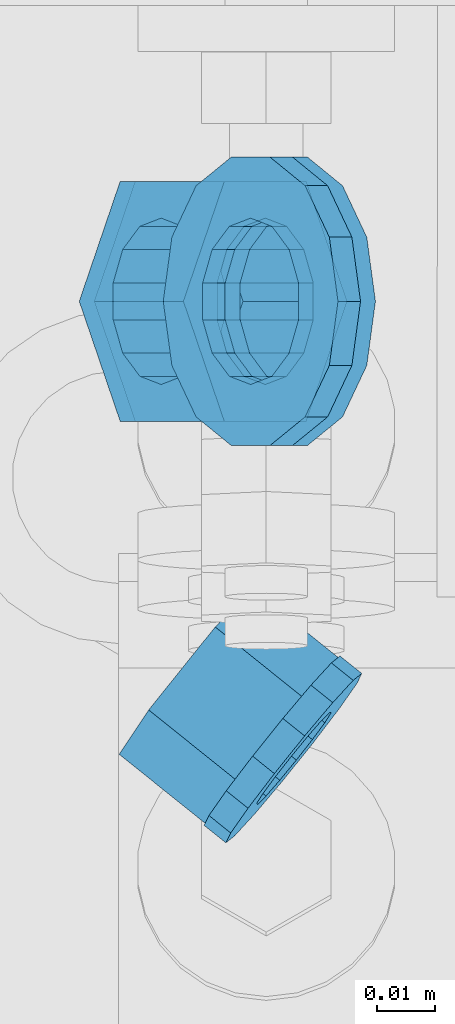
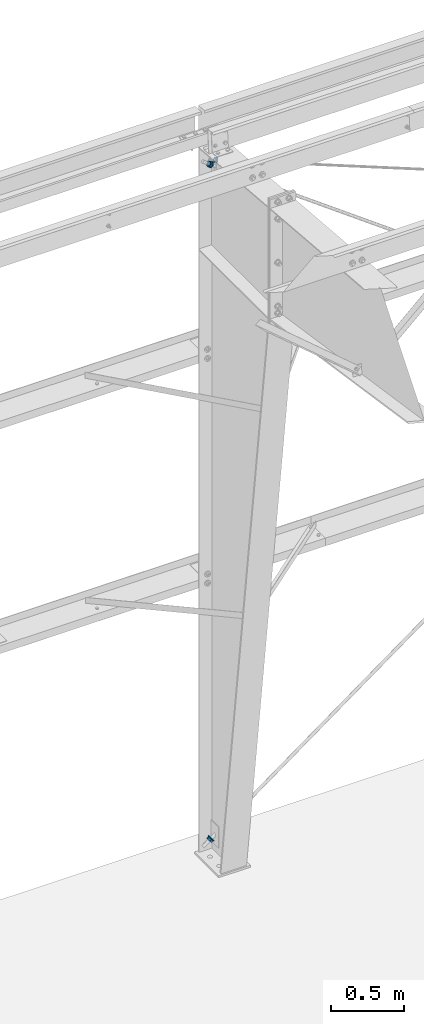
# One storey, part 37 of 185: 4 members, 2 beams, 6 elements without a shape of their own.
"""IFC2X3 building model written with IfcOpenShell, lengths in millimetres."""

from ifc_helpers import new_model, si_unit, frame, origin_with_axes, place, context, subcontext, project, spatial, polyline, outline, extrude, material, type_object, element, aggregate, save


model = new_model("IFC2X3")

# Units and contexts
model_context = context("Model", 3, precision=1e-05, world=origin_with_axes())
body_context = subcontext(model_context, "Body", "Model", "MODEL_VIEW")
ifc_project = project(units=[si_unit("LENGTHUNIT", "METRE", prefix="MILLI"), si_unit("AREAUNIT", "SQUARE_METRE"), si_unit("VOLUMEUNIT", "CUBIC_METRE"), si_unit("MASSUNIT", "GRAM", prefix="KILO"), si_unit("TIMEUNIT", "SECOND"), si_unit("PLANEANGLEUNIT", "RADIAN"), si_unit("SOLIDANGLEUNIT", "STERADIAN"), si_unit("THERMODYNAMICTEMPERATUREUNIT", "DEGREE_CELSIUS"), si_unit("LUMINOUSINTENSITYUNIT", "LUMEN")], contexts=[model_context])

# Site, building, storey
site_placement = place(None, origin_with_axes())
site = spatial("IfcSite", under=ifc_project, at=site_placement, Name="Undefined", CompositionType="ELEMENT")
building_placement = place(site_placement, origin_with_axes())
building = spatial("IfcBuilding", under=site, at=building_placement, Name="Undefined", CompositionType="ELEMENT")
storey_placement = place(building_placement, origin_with_axes())
storey = spatial("IfcBuildingStorey", under=building, at=storey_placement, Name="Undefined", CompositionType="ELEMENT", Elevation=0.0)

# Assembly, member
assembly_1_placement = place(storey_placement, origin_with_axes())
assembly_1 = element("IfcElementAssembly", 1, at=assembly_1_placement, inside=storey, Name="Steel Assembly", AssemblyPlace="NOTDEFINED", PredefinedType="RIGID_FRAME")
ifc_material = material(Name="STEEL/55")
member_type_1 = type_object("IfcMemberType", Name="1_HEAVY_HEX_NUT", PredefinedType="NOTDEFINED")
member_1_placement = place(assembly_1_placement, frame((7200.77703490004, 31742.1260000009, 140.13358338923), z_axis=(-8.18690000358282e-05, -0.999999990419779, 0.000111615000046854), x_axis=(-0.806747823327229, 0.0, -0.590895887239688)))
member_1 = element("IfcMember", 2, at=member_1_placement, type_object=member_type_1, material=ifc_material, Name="1 H HEX NUT A563", ObjectType="1_HEAVY_HEX_NUT", context=body_context, shape_type="SweptSolid", body=[
    extrude(outline(polyline([(-11.909999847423, 20.620000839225), (11.9099998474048, 20.6200008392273), (23.8099994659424, -4.9453774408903e-12), (11.9099998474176, -20.6200008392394), (-11.9099998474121, -20.6200008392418), (-23.8099994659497, -9.49285094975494e-12), (-11.909999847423, 20.620000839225)]), holes=[polyline([(11.1723718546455, -8.90966924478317), (13.9317198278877, -3.17982413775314), (13.9317198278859, 3.17982413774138), (11.17237185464, 8.9096692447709), (6.20019861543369, 12.8748450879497), (-5.45696821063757e-12, 14.2899999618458), (-6.20019861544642, 12.8748450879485), (-11.1723718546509, 8.90966924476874), (-13.931719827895, 3.17982413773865), (-13.9317198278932, -3.17982413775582), (-11.1723718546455, -8.90966924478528), (-6.20019861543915, -12.8748450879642), (0.0, -14.2899999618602), (6.20019861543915, -12.874845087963), (11.1723718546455, -8.90966924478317)])]), frame((19.0500000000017, 0.0, 2.58175642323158e-19), z_axis=(-1.0, 0.0, 0.0), x_axis=(0.0, -1.0, 0.0)), (0.0, 0.0, 1.0), 19.0),
])
aggregate(assembly_1, [member_1])

assembly_2_placement = place(storey_placement, origin_with_axes())
assembly_2 = element("IfcElementAssembly", 3, at=assembly_2_placement, inside=storey, Name="Steel Assembly", AssemblyPlace="NOTDEFINED", PredefinedType="RIGID_FRAME")
member_2_placement = place(assembly_2_placement, frame((7198.21561148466, 31742.1259999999, 5779.4995872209), z_axis=(-8.17930000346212e-05, 0.999999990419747, -0.000111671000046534), x_axis=(-0.806747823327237, 0.0, 0.590895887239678)))
member_2 = element("IfcMember", 4, at=member_2_placement, type_object=member_type_1, material=ifc_material, Name="1 H HEX NUT A563", ObjectType="1_HEAVY_HEX_NUT", context=body_context, shape_type="SweptSolid", body=[
    extrude(outline(polyline([(-11.909999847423, 20.620000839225), (11.9099998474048, 20.6200008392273), (23.8099994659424, -4.9453774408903e-12), (11.9099998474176, -20.6200008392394), (-11.9099998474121, -20.6200008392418), (-23.8099994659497, -9.49285094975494e-12), (-11.909999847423, 20.620000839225)]), holes=[polyline([(11.1723718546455, -8.90966924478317), (13.9317198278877, -3.17982413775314), (13.9317198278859, 3.17982413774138), (11.17237185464, 8.9096692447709), (6.20019861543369, 12.8748450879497), (-5.45696821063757e-12, 14.2899999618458), (-6.20019861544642, 12.8748450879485), (-11.1723718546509, 8.90966924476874), (-13.931719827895, 3.17982413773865), (-13.9317198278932, -3.17982413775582), (-11.1723718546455, -8.90966924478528), (-6.20019861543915, -12.8748450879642), (0.0, -14.2899999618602), (6.20019861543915, -12.874845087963), (11.1723718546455, -8.90966924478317)])]), frame((19.0500000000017, 0.0, 2.58175642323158e-19), z_axis=(-1.0, 0.0, 0.0), x_axis=(0.0, -1.0, 0.0)), (0.0, 0.0, 1.0), 19.0),
])
aggregate(assembly_2, [member_2])

assembly_3_placement = place(storey_placement, origin_with_axes())
assembly_3 = element("IfcElementAssembly", 5, at=assembly_3_placement, inside=storey, Name="Steel Assembly", AssemblyPlace="NOTDEFINED", PredefinedType="RIGID_FRAME")
member_type_2 = type_object("IfcMemberType", Name="1_WASHER", PredefinedType="NOTDEFINED")
member_3_placement = place(assembly_3_placement, frame((7204.61917140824, 31742.1260000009, 142.947725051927), z_axis=(-8.18690000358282e-05, -0.999999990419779, 0.000111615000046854), x_axis=(-0.806747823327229, 0.0, -0.590895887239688)))
member_3 = element("IfcMember", 6, at=member_3_placement, type_object=member_type_2, material=ifc_material, Name="1 WASHER F844", ObjectType="1_WASHER", context=body_context, shape_type="SweptSolid", body=[
    extrude(outline(polyline([(15.8366407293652, 19.8585193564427), (22.8846089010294, 11.020646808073), (25.3999996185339, 6.25277607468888e-13), (22.8846089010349, -11.0206468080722), (15.8366407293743, -19.8585193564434), (5.6520316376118, -24.7631685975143), (-5.65203163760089, -24.7631685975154), (-15.8366407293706, -19.8585193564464), (-22.8846089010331, -11.0206468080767), (-25.3999996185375, -4.32009983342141e-12), (-22.8846089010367, 11.0206468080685), (-15.8366407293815, 19.8585193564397), (-5.65203163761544, 24.7631685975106), (5.65203163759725, 24.7631685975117), (15.8366407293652, 19.8585193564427)]), holes=[polyline([(11.1723718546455, -8.90966924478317), (13.9317198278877, -3.17982413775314), (13.9317198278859, 3.17982413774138), (11.17237185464, 8.9096692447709), (6.20019861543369, 12.8748450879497), (-5.45696821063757e-12, 14.2899999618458), (-6.20019861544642, 12.8748450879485), (-11.1723718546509, 8.90966924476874), (-13.931719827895, 3.17982413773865), (-13.9317198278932, -3.17982413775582), (-11.1723718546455, -8.90966924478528), (-6.20019861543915, -12.8748450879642), (0.0, -14.2899999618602), (6.20019861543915, -12.874845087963), (11.1723718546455, -8.90966924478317)])]), frame((4.76250000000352, 2.6437185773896e-16, 5.6843418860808e-14), z_axis=(-1.0, 0.0, 0.0), x_axis=(0.0, -1.0, 0.0)), (0.0, 0.0, 1.0), 4.8),
])
aggregate(assembly_3, [member_3])

assembly_4_placement = place(storey_placement, origin_with_axes())
assembly_4 = element("IfcElementAssembly", 7, at=assembly_4_placement, inside=storey, Name="Steel Assembly", AssemblyPlace="NOTDEFINED", PredefinedType="RIGID_FRAME")
member_4_placement = place(assembly_4_placement, frame((7202.05774799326, 31742.1259999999, 5776.68544555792), z_axis=(-8.17930000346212e-05, 0.999999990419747, -0.000111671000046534), x_axis=(-0.806747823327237, 0.0, 0.590895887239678)))
member_4 = element("IfcMember", 8, at=member_4_placement, type_object=member_type_2, material=ifc_material, Name="1 WASHER F844", ObjectType="1_WASHER", context=body_context, shape_type="SweptSolid", body=[
    extrude(outline(polyline([(15.8366407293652, 19.8585193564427), (22.8846089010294, 11.020646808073), (25.3999996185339, 6.25277607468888e-13), (22.8846089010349, -11.0206468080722), (15.8366407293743, -19.8585193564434), (5.6520316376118, -24.7631685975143), (-5.65203163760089, -24.7631685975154), (-15.8366407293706, -19.8585193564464), (-22.8846089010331, -11.0206468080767), (-25.3999996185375, -4.32009983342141e-12), (-22.8846089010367, 11.0206468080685), (-15.8366407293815, 19.8585193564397), (-5.65203163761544, 24.7631685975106), (5.65203163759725, 24.7631685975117), (15.8366407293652, 19.8585193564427)]), holes=[polyline([(11.1723718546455, -8.90966924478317), (13.9317198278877, -3.17982413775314), (13.9317198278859, 3.17982413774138), (11.17237185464, 8.9096692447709), (6.20019861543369, 12.8748450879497), (-5.45696821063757e-12, 14.2899999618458), (-6.20019861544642, 12.8748450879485), (-11.1723718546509, 8.90966924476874), (-13.931719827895, 3.17982413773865), (-13.9317198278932, -3.17982413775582), (-11.1723718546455, -8.90966924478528), (-6.20019861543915, -12.8748450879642), (0.0, -14.2899999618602), (6.20019861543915, -12.874845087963), (11.1723718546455, -8.90966924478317)])]), frame((4.76250000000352, 2.6437185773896e-16, 5.6843418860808e-14), z_axis=(-1.0, 0.0, 0.0), x_axis=(0.0, -1.0, 0.0)), (0.0, 0.0, 1.0), 4.8),
])
aggregate(assembly_4, [member_4])

# Assembly, beam
assembly_5_placement = place(storey_placement, origin_with_axes())
assembly_5 = element("IfcElementAssembly", 9, at=assembly_5_placement, inside=storey, Name="Steel Assembly", AssemblyPlace="NOTDEFINED", PredefinedType="RIGID_FRAME")
beam_type_1 = type_object("IfcBeamType", Name="3/4_HEAVY_HEX_NUT", PredefinedType="NOTDEFINED")
beam_1_placement = place(assembly_5_placement, frame((7201.90416712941, 31666.6493418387, 5861.25437917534), z_axis=(0.0409593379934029, -0.0321710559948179, -0.998642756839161), x_axis=(-0.778915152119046, 0.624963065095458, -0.0520802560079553)))
beam_1 = element("IfcBeam", 10, at=beam_1_placement, type_object=beam_type_1, material=ifc_material, Name="3/4 H HEX NUT A563", ObjectType="3/4_HEAVY_HEX_NUT", context=body_context, shape_type="SweptSolid", body=[
    extrude(outline(polyline([(9.13000011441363, -15.810000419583), (-9.13000011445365, -15.810000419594), (-18.2600002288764, 1.54614099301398e-11), (-9.13000011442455, 15.8100004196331), (9.13000011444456, 15.8100004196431), (18.2600002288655, 3.36513039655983e-11), (9.13000011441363, -15.810000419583)]), holes=[polyline([(-8.06850066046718, 6.43441456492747), (-10.061255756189, 2.29641597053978), (-10.0612557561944, -2.29641597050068), (-8.06850066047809, -6.43441456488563), (-4.47768005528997, -9.29799844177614), (-1.09139364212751e-11, -10.3199996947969), (4.47768005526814, -9.29799844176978), (8.0685006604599, -6.43441456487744), (10.0612557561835, -2.29641597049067), (10.0612557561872, 2.2964159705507), (8.06850066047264, 6.43441456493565), (4.47768005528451, 9.29799844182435), (7.27595761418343e-12, 10.319999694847), (-4.47768005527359, 9.2979984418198), (-8.06850066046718, 6.43441456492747)])]), frame((19.0500000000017, 0.0, 2.58175642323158e-19), z_axis=(-1.0, 0.0, 0.0), x_axis=(0.0, -1.0, 0.0)), (0.0, 0.0, 1.0), 19.1),
])
aggregate(assembly_5, [beam_1])

assembly_6_placement = place(storey_placement, origin_with_axes())
assembly_6 = element("IfcElementAssembly", 11, at=assembly_6_placement, inside=storey, Name="Steel Assembly", AssemblyPlace="NOTDEFINED", PredefinedType="RIGID_FRAME")
beam_type_2 = type_object("IfcBeamType", Name="3/4_WASHER", PredefinedType="NOTDEFINED")
beam_2_placement = place(assembly_6_placement, frame((7205.61375054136, 31663.6729552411, 5861.50241139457), z_axis=(0.0409593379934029, -0.0321710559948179, -0.998642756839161), x_axis=(-0.778915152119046, 0.624963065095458, -0.0520802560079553)))
beam_2 = element("IfcBeam", 12, at=beam_2_placement, type_object=beam_type_2, material=ifc_material, Name="3/4 WASHER F844", ObjectType="3/4_WASHER", context=body_context, shape_type="SweptSolid", body=[
    extrude(outline(polyline([(-11.6280845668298, -14.5811568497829), (-16.8030690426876, -8.09193156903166), (-18.649999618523, -4.54747350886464e-12), (-16.8030690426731, 8.09193156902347), (-11.6280845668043, 14.5811568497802), (-4.15001533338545, 18.1824051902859), (4.15001533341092, 18.1824051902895), (11.628084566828, 14.5811568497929), (16.8030690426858, 8.09193156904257), (18.6499996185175, 1.45519152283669e-11), (16.8030690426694, -8.09193156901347), (11.6280845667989, -14.5811568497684), (4.15001533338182, -18.182405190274), (-4.15001533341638, -18.1824051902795), (-11.6280845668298, -14.5811568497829)]), holes=[polyline([(-8.06850066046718, 6.43441456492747), (-10.061255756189, 2.29641597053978), (-10.0612557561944, -2.29641597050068), (-8.06850066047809, -6.43441456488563), (-4.47768005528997, -9.29799844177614), (-1.09139364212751e-11, -10.3199996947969), (4.47768005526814, -9.29799844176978), (8.0685006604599, -6.43441456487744), (10.0612557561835, -2.29641597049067), (10.0612557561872, 2.2964159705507), (8.06850066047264, 6.43441456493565), (4.47768005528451, 9.29799844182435), (7.27595761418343e-12, 10.319999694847), (-4.47768005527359, 9.2979984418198), (-8.06850066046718, 6.43441456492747)])]), frame((4.76250000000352, 2.6437185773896e-16, 5.6843418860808e-14), z_axis=(-1.0, 0.0, 0.0), x_axis=(0.0, -1.0, 0.0)), (0.0, 0.0, 1.0), 4.8),
])
aggregate(assembly_6, [beam_2])

save(model, "model.ifc")
